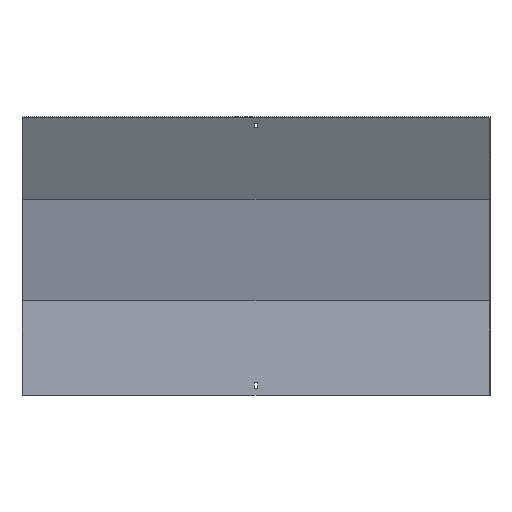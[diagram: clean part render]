
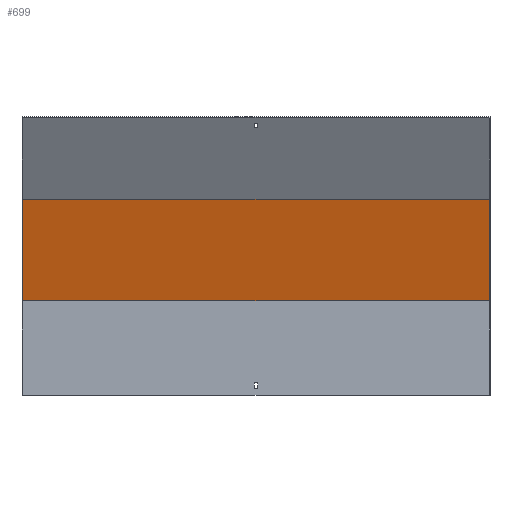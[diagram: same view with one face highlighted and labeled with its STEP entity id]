
A CAD part, front view. The second image highlights one B-rep face of the part: STEP entity #699.
In plain terms, the highlighted planar face has unit normal (0, -0.966, -0.259).
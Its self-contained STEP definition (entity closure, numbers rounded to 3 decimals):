
#14 = ORIENTED_EDGE ( 'NONE', *, *, #630, .T. ) ;
#63 = DIRECTION ( 'NONE',  ( 0., -0.966, -0.259 ) ) ;
#82 = VECTOR ( 'NONE', #283, 1000. ) ;
#87 = ORIENTED_EDGE ( 'NONE', *, *, #515, .F. ) ;
#114 = FACE_OUTER_BOUND ( 'NONE', #429, .T. ) ;
#117 = LINE ( 'NONE', #536, #772 ) ;
#133 = CARTESIAN_POINT ( 'NONE',  ( 400., -28.054, 336.178 ) ) ;
#158 = VERTEX_POINT ( 'NONE', #535 ) ;
#163 = CARTESIAN_POINT ( 'NONE',  ( 401.5, 18.5, 162.436 ) ) ;
#220 = CARTESIAN_POINT ( 'NONE',  ( -400., 18.5, 162.436 ) ) ;
#222 = DIRECTION ( 'NONE',  ( -1., 0., 0. ) ) ;
#236 = VERTEX_POINT ( 'NONE', #220 ) ;
#283 = DIRECTION ( 'NONE',  ( -1., 0., 0. ) ) ;
#336 = EDGE_CURVE ( 'NONE', #236, #158, #117, .T. ) ;
#371 = VERTEX_POINT ( 'NONE', #470 ) ;
#415 = LINE ( 'NONE', #163, #82 ) ;
#421 = VERTEX_POINT ( 'NONE', #133 ) ;
#429 = EDGE_LOOP ( 'NONE', ( #591, #87, #14, #701 ) ) ;
#458 = DIRECTION ( 'NONE',  ( 0., 0.259, -0.966 ) ) ;
#470 = CARTESIAN_POINT ( 'NONE',  ( 400., 18.5, 162.436 ) ) ;
#515 = EDGE_CURVE ( 'NONE', #371, #236, #415, .T. ) ;
#529 = DIRECTION ( 'NONE',  ( 0., -0.259, 0.966 ) ) ;
#535 = CARTESIAN_POINT ( 'NONE',  ( -400., -28.054, 336.178 ) ) ;
#536 = CARTESIAN_POINT ( 'NONE',  ( -400., 57.87, 15.506 ) ) ;
#544 = CARTESIAN_POINT ( 'NONE',  ( 401.5, -28.054, 336.178 ) ) ;
#547 = VECTOR ( 'NONE', #796, 1000. ) ;
#591 = ORIENTED_EDGE ( 'NONE', *, *, #336, .F. ) ;
#616 = LINE ( 'NONE', #544, #618 ) ;
#618 = VECTOR ( 'NONE', #222, 1000. ) ;
#630 = EDGE_CURVE ( 'NONE', #371, #421, #652, .T. ) ;
#652 = LINE ( 'NONE', #658, #547 ) ;
#658 = CARTESIAN_POINT ( 'NONE',  ( 400., 57.87, 15.506 ) ) ;
#699 = ADVANCED_FACE ( 'NONE', ( #114 ), #779, .T. ) ;
#701 = ORIENTED_EDGE ( 'NONE', *, *, #822, .T. ) ;
#707 = AXIS2_PLACEMENT_3D ( 'NONE', #844, #63, #458 ) ;
#772 = VECTOR ( 'NONE', #529, 1000. ) ;
#779 = PLANE ( 'NONE',  #707 ) ;
#796 = DIRECTION ( 'NONE',  ( 0., -0.259, 0.966 ) ) ;
#822 = EDGE_CURVE ( 'NONE', #421, #158, #616, .T. ) ;
#844 = CARTESIAN_POINT ( 'NONE',  ( 401.5, 17.87, 164.788 ) ) ;
